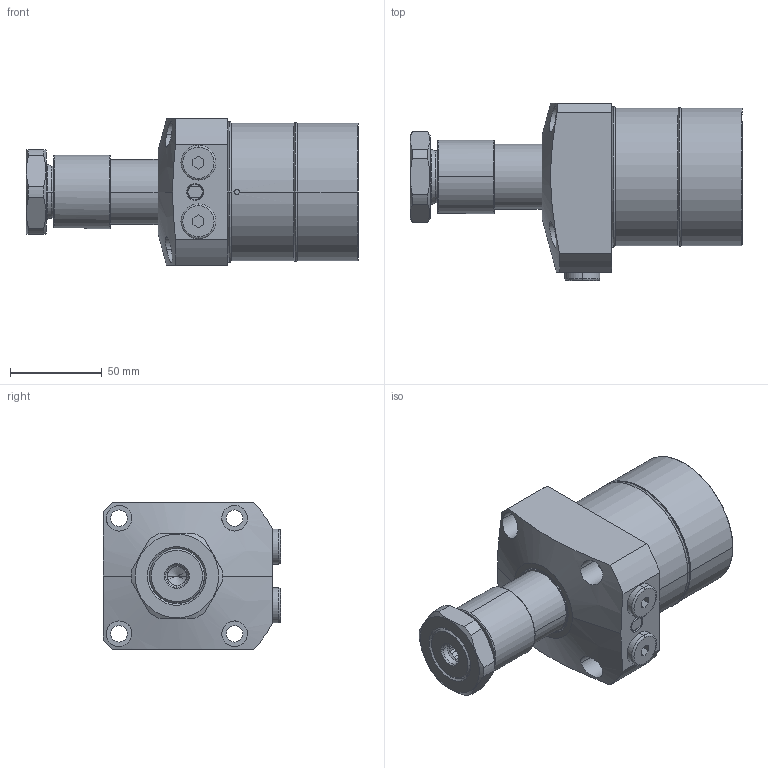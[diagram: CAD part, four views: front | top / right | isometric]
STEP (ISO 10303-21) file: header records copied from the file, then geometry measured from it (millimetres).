
FILE_DESCRIPTION(/* description */ (''),/* implementation_level */ '2;1');
FILE_NAME(/* name */ 'KTRW75-LJ.stp',/* time_stamp */ '2022-11-18T13:37:57+08:00',/* author */ (''),/* organization */ (''),/* preprocessor_version */ 'ST-DEVELOPER v16.7',/* originating_system */ 'SIEMENS PLM Software NX 12.0',/* authorisation */ '');
FILE_SCHEMA (('AP203_CONFIGURATION_CONTROLLED_3D_DESIGN_OF_MECHANICAL_PARTS_AND_ASSEMBLIES_MIM_LF { 1 0 10303 403 2 1 2}'));
Length unit declared in the file: millimetre
Products named in the file (7): KTRW75-LJ-01; KTRW75-LJ-02; KTRW75-LJ-03; KTRW75-LJ-06; KTRW75-LJ-05; KTRW75-LJ-04; LHW0751-CLJ_step
Assembly tree (9 placements, depth 2):
  LHW0751-CLJ_step
    KTRW75-LJ-04  x2
    KTRW75-LJ-05
    KTRW75-LJ-06  x3
    KTRW75-LJ-03
    KTRW75-LJ-02
    KTRW75-LJ-01
Bounding box: 181 x 96.5 x 80 mm (x, y, z)
Volume: 612763 mm3; surface area: 79545.4 mm2
Topology: 11 solids, 11 shells, 356 faces, 800 edges, 490 vertices
Faces by surface type: cylinder 103, plane 103, torus 81, cone 67, sphere 2
Entity records: 9419 total; most frequent: CARTESIAN_POINT 1943, DIRECTION 1493, ORIENTED_EDGE 1300, EDGE_CURVE 650, AXIS2_PLACEMENT_3D 631, VERTEX_POINT 402, CIRCLE 336, EDGE_LOOP 322
